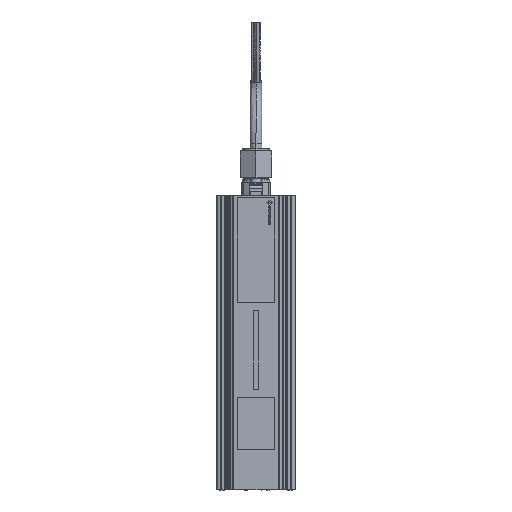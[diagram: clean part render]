
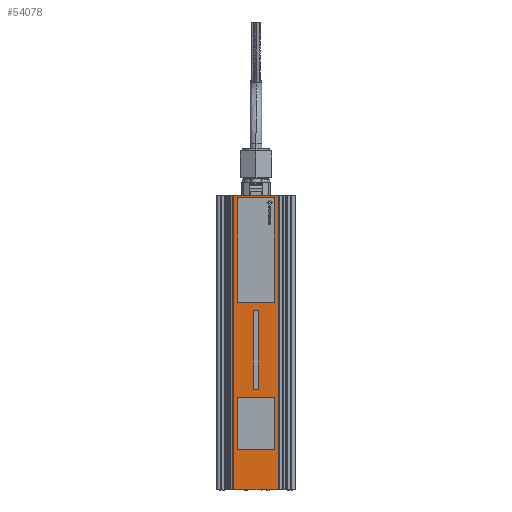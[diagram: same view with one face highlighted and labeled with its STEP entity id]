
A CAD part, left-side view. The second image highlights one B-rep face of the part: STEP entity #54078.
In plain terms, the highlighted planar face has unit normal (-1, 0, 0).
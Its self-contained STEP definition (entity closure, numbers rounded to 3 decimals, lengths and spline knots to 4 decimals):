
#2177 = ORIENTED_EDGE ( 'NONE', *, *, #100072, .F. ) ;
#2179 = ORIENTED_EDGE ( 'NONE', *, *, #100069, .F. ) ;
#2181 = ORIENTED_EDGE ( 'NONE', *, *, #100050, .F. ) ;
#2183 = ORIENTED_EDGE ( 'NONE', *, *, #100074, .F. ) ;
#2185 = ORIENTED_EDGE ( 'NONE', *, *, #100067, .T. ) ;
#2187 = ORIENTED_EDGE ( 'NONE', *, *, #100059, .F. ) ;
#2189 = ORIENTED_EDGE ( 'NONE', *, *, #100078, .F. ) ;
#2191 = ORIENTED_EDGE ( 'NONE', *, *, #100076, .T. ) ;
#2193 = ORIENTED_EDGE ( 'NONE', *, *, #100082, .F. ) ;
#2195 = ORIENTED_EDGE ( 'NONE', *, *, #100080, .F. ) ;
#2197 = ORIENTED_EDGE ( 'NONE', *, *, #100087, .F. ) ;
#2199 = ORIENTED_EDGE ( 'NONE', *, *, #100085, .F. ) ;
#2201 = ORIENTED_EDGE ( 'NONE', *, *, #100091, .F. ) ;
#2203 = ORIENTED_EDGE ( 'NONE', *, *, #100089, .F. ) ;
#2205 = ORIENTED_EDGE ( 'NONE', *, *, #100095, .F. ) ;
#2207 = ORIENTED_EDGE ( 'NONE', *, *, #100093, .F. ) ;
#54078 = ADVANCED_FACE ( 'NONE', ( #108212, #108221, #108224, #108217 ), #109251, .T. ) ;
#72213 = CARTESIAN_POINT ( 'NONE',  ( -5., -0.08, -3.45 ) ) ;
#72246 = DIRECTION ( 'NONE',  ( 0., 0., 1. ) ) ;
#72276 = CARTESIAN_POINT ( 'NONE',  ( -5., -0.6634, -0.7874 ) ) ;
#72278 = DIRECTION ( 'NONE',  ( 0., 0., -1. ) ) ;
#72283 = CARTESIAN_POINT ( 'NONE',  ( -5., -0.08, -3.45 ) ) ;
#72291 = CARTESIAN_POINT ( 'NONE',  ( -5., -0.08, -5.825 ) ) ;
#72295 = CARTESIAN_POINT ( 'NONE',  ( -5., 0., -8.8583 ) ) ;
#72297 = DIRECTION ( 'NONE',  ( 0., -1., 0. ) ) ;
#72300 = DIRECTION ( 'NONE',  ( 0., 1., 0. ) ) ;
#72303 = CARTESIAN_POINT ( 'NONE',  ( -5., 0.08, -3.45 ) ) ;
#72305 = DIRECTION ( 'NONE',  ( 0., 0., -1. ) ) ;
#72308 = DIRECTION ( 'NONE',  ( 0., -1., 0. ) ) ;
#72310 = CARTESIAN_POINT ( 'NONE',  ( -5., 0.6634, -0.7874 ) ) ;
#72312 = DIRECTION ( 'NONE',  ( 0., 0., -1. ) ) ;
#72314 = CARTESIAN_POINT ( 'NONE',  ( -5., 1.1417, 0. ) ) ;
#72315 = DIRECTION ( 'NONE',  ( 0., -1., 0. ) ) ;
#72317 = CARTESIAN_POINT ( 'NONE',  ( -5., 0.57, -0.06 ) ) ;
#72319 = CARTESIAN_POINT ( 'NONE',  ( -5., -0.57, -0.06 ) ) ;
#72321 = DIRECTION ( 'NONE',  ( 0., 1., 0. ) ) ;
#72323 = CARTESIAN_POINT ( 'NONE',  ( -5., 0.57, -0.06 ) ) ;
#72326 = DIRECTION ( 'NONE',  ( 0., 0., -1. ) ) ;
#72329 = CARTESIAN_POINT ( 'NONE',  ( -5., 0.57, -3.2 ) ) ;
#72330 = DIRECTION ( 'NONE',  ( 0., -1., 0. ) ) ;
#72332 = DIRECTION ( 'NONE',  ( 0., 0., 1. ) ) ;
#72334 = CARTESIAN_POINT ( 'NONE',  ( -5., -0.57, -6.075 ) ) ;
#72337 = DIRECTION ( 'NONE',  ( 0., 1., 0. ) ) ;
#72339 = CARTESIAN_POINT ( 'NONE',  ( -5., 0.57, -6.075 ) ) ;
#72342 = DIRECTION ( 'NONE',  ( 0., 0., -1. ) ) ;
#72344 = CARTESIAN_POINT ( 'NONE',  ( -5., -0.57, -7.645 ) ) ;
#72346 = DIRECTION ( 'NONE',  ( 0., -1., 0. ) ) ;
#72347 = CARTESIAN_POINT ( 'NONE',  ( -5., -0.57, -6.075 ) ) ;
#72351 = DIRECTION ( 'NONE',  ( 0., 0., 1. ) ) ;
#72713 = VECTOR ( 'NONE', #72246, 39.3701 ) ;
#72725 = LINE ( 'NONE', #72213, #72713 ) ;
#72726 = LINE ( 'NONE', #72276, #72729 ) ;
#72727 = LINE ( 'NONE', #72283, #72735 ) ;
#72729 = VECTOR ( 'NONE', #72278, 39.3701 ) ;
#72732 = LINE ( 'NONE', #72295, #72738 ) ;
#72735 = VECTOR ( 'NONE', #72300, 39.3701 ) ;
#72738 = VECTOR ( 'NONE', #72297, 39.3701 ) ;
#72739 = VECTOR ( 'NONE', #72305, 39.3701 ) ;
#72740 = LINE ( 'NONE', #72291, #72744 ) ;
#72741 = LINE ( 'NONE', #72303, #72739 ) ;
#72742 = LINE ( 'NONE', #72314, #72748 ) ;
#72743 = LINE ( 'NONE', #72310, #72746 ) ;
#72744 = VECTOR ( 'NONE', #72308, 39.3701 ) ;
#72745 = LINE ( 'NONE', #72317, #72750 ) ;
#72746 = VECTOR ( 'NONE', #72312, 39.3701 ) ;
#72747 = LINE ( 'NONE', #72323, #72752 ) ;
#72748 = VECTOR ( 'NONE', #72315, 39.3701 ) ;
#72749 = VECTOR ( 'NONE', #72330, 39.3701 ) ;
#72750 = VECTOR ( 'NONE', #72321, 39.3701 ) ;
#72751 = LINE ( 'NONE', #72329, #72749 ) ;
#72752 = VECTOR ( 'NONE', #72326, 39.3701 ) ;
#72753 = LINE ( 'NONE', #72319, #72756 ) ;
#72754 = LINE ( 'NONE', #72339, #72760 ) ;
#72755 = LINE ( 'NONE', #72334, #72758 ) ;
#72756 = VECTOR ( 'NONE', #72332, 39.3701 ) ;
#72757 = LINE ( 'NONE', #72344, #72762 ) ;
#72758 = VECTOR ( 'NONE', #72337, 39.3701 ) ;
#72759 = LINE ( 'NONE', #72347, #72764 ) ;
#72760 = VECTOR ( 'NONE', #72342, 39.3701 ) ;
#72762 = VECTOR ( 'NONE', #72346, 39.3701 ) ;
#72764 = VECTOR ( 'NONE', #72351, 39.3701 ) ;
#82714 = CARTESIAN_POINT ( 'NONE',  ( -5., 0.08, -3.45 ) ) ;
#82715 = CARTESIAN_POINT ( 'NONE',  ( -5., 0.08, -5.825 ) ) ;
#82716 = CARTESIAN_POINT ( 'NONE',  ( -5., -0.08, -3.45 ) ) ;
#82717 = CARTESIAN_POINT ( 'NONE',  ( -5., -0.08, -5.825 ) ) ;
#82718 = CARTESIAN_POINT ( 'NONE',  ( -5., 0.6634, -8.8583 ) ) ;
#82719 = CARTESIAN_POINT ( 'NONE',  ( -5., -0.6634, -8.8583 ) ) ;
#82720 = CARTESIAN_POINT ( 'NONE',  ( -5., -0.6634, 0. ) ) ;
#82721 = CARTESIAN_POINT ( 'NONE',  ( -5., 0.6634, 0. ) ) ;
#82722 = CARTESIAN_POINT ( 'NONE',  ( -5., 0.57, -0.06 ) ) ;
#82723 = CARTESIAN_POINT ( 'NONE',  ( -5., 0.57, -3.2 ) ) ;
#82724 = CARTESIAN_POINT ( 'NONE',  ( -5., -0.57, -0.06 ) ) ;
#82725 = CARTESIAN_POINT ( 'NONE',  ( -5., -0.57, -3.2 ) ) ;
#82726 = CARTESIAN_POINT ( 'NONE',  ( -5., 0.57, -6.075 ) ) ;
#82727 = CARTESIAN_POINT ( 'NONE',  ( -5., 0.57, -7.645 ) ) ;
#82728 = CARTESIAN_POINT ( 'NONE',  ( -5., -0.57, -6.075 ) ) ;
#82729 = CARTESIAN_POINT ( 'NONE',  ( -5., -0.57, -7.645 ) ) ;
#94741 = EDGE_LOOP ( 'NONE', ( #2177, #2179, #2181, #2183 ) ) ;
#94747 = EDGE_LOOP ( 'NONE', ( #2185, #2187, #2189, #2191 ) ) ;
#94749 = EDGE_LOOP ( 'NONE', ( #2193, #2195, #2197, #2199 ) ) ;
#94752 = EDGE_LOOP ( 'NONE', ( #2201, #2203, #2205, #2207 ) ) ;
#100050 = EDGE_CURVE ( 'NONE', #105216, #105215, #72725, .T. ) ;
#100059 = EDGE_CURVE ( 'NONE', #105219, #105218, #72726, .T. ) ;
#100067 = EDGE_CURVE ( 'NONE', #105217, #105218, #72732, .T. ) ;
#100069 = EDGE_CURVE ( 'NONE', #105215, #105213, #72727, .T. ) ;
#100072 = EDGE_CURVE ( 'NONE', #105213, #105214, #72741, .T. ) ;
#100074 = EDGE_CURVE ( 'NONE', #105214, #105216, #72740, .T. ) ;
#100076 = EDGE_CURVE ( 'NONE', #105220, #105217, #72743, .T. ) ;
#100078 = EDGE_CURVE ( 'NONE', #105220, #105219, #72742, .T. ) ;
#100080 = EDGE_CURVE ( 'NONE', #105223, #105221, #72745, .T. ) ;
#100082 = EDGE_CURVE ( 'NONE', #105221, #105222, #72747, .T. ) ;
#100085 = EDGE_CURVE ( 'NONE', #105222, #105224, #72751, .T. ) ;
#100087 = EDGE_CURVE ( 'NONE', #105224, #105223, #72753, .T. ) ;
#100089 = EDGE_CURVE ( 'NONE', #105227, #105225, #72755, .T. ) ;
#100091 = EDGE_CURVE ( 'NONE', #105225, #105226, #72754, .T. ) ;
#100093 = EDGE_CURVE ( 'NONE', #105226, #105228, #72757, .T. ) ;
#100095 = EDGE_CURVE ( 'NONE', #105228, #105227, #72759, .T. ) ;
#105213 = VERTEX_POINT ( 'NONE', #82714 ) ;
#105214 = VERTEX_POINT ( 'NONE', #82715 ) ;
#105215 = VERTEX_POINT ( 'NONE', #82716 ) ;
#105216 = VERTEX_POINT ( 'NONE', #82717 ) ;
#105217 = VERTEX_POINT ( 'NONE', #82718 ) ;
#105218 = VERTEX_POINT ( 'NONE', #82719 ) ;
#105219 = VERTEX_POINT ( 'NONE', #82720 ) ;
#105220 = VERTEX_POINT ( 'NONE', #82721 ) ;
#105221 = VERTEX_POINT ( 'NONE', #82722 ) ;
#105222 = VERTEX_POINT ( 'NONE', #82723 ) ;
#105223 = VERTEX_POINT ( 'NONE', #82724 ) ;
#105224 = VERTEX_POINT ( 'NONE', #82725 ) ;
#105225 = VERTEX_POINT ( 'NONE', #82726 ) ;
#105226 = VERTEX_POINT ( 'NONE', #82727 ) ;
#105227 = VERTEX_POINT ( 'NONE', #82728 ) ;
#105228 = VERTEX_POINT ( 'NONE', #82729 ) ;
#108212 = FACE_BOUND ( 'NONE', #94741, .T. ) ;
#108217 = FACE_BOUND ( 'NONE', #94752, .T. ) ;
#108221 = FACE_OUTER_BOUND ( 'NONE', #94747, .T. ) ;
#108224 = FACE_BOUND ( 'NONE', #94749, .T. ) ;
#108499 = AXIS2_PLACEMENT_3D ( 'NONE', #109242, #109257, #109258 ) ;
#109242 = CARTESIAN_POINT ( 'NONE',  ( -5., 0., -0.7874 ) ) ;
#109251 = PLANE ( 'NONE',  #108499 ) ;
#109257 = DIRECTION ( 'NONE',  ( -1., 0., 0. ) ) ;
#109258 = DIRECTION ( 'NONE',  ( 0., 0., 1. ) ) ;
